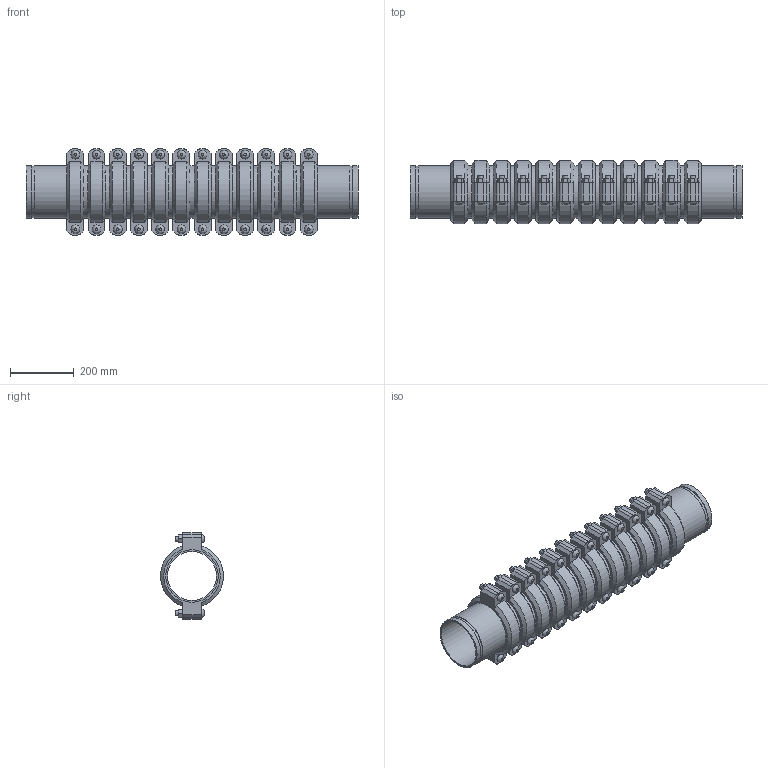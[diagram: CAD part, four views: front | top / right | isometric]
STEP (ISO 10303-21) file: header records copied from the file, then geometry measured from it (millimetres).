
FILE_DESCRIPTION(/* description */ ('VIC EXPANSION JOINT 12 COUPLINGS EXPANDED STYLE 155 (OGS)','CAx-IF Rec.Pracs.---Representation and Presentation of Product Manufacturing Information (PMI)---4.0---2014-10-13'),/* implementation_level */ '2;1');
FILE_NAME(/* name */ 'C:\Users\kkamble\AppData\Roaming\Autodesk\ApplicationPlugins\Victaulic.Temp\A519\Victaulic_IPS_Expansion Joint_Expanded_12 Couplings_Style 155 (OGS)_06.0 (165.1) (150).stp',/* time_stamp */ '2021-06-26T23:54:50+02:00',/* author */ ('kkamble'),/* organization */ ('Victaulic'),/* preprocessor_version */ 'ST-DEVELOPER v17.2',/* originating_system */ 'Autodesk Inventor 2019',/* authorisation */ '');
FILE_SCHEMA (('AP242_MANAGED_MODEL_BASED_3D_ENGINEERING_MIM_LF { 1 0 10303 442 1 1 4 }'));
Length unit declared in the file: inch
Products named in the file (4): 155-06.0 (165.1); Nipple-06.0 (165.1); Nipple-06.0 (165.1)_1; 075-06.0 (165.1)
Assembly tree (25 placements, depth 2):
  155-06.0 (165.1)
    Nipple-06.0 (165.1)  x2
    Nipple-06.0 (165.1)_1  x11
    075-06.0 (165.1)  x12
Bounding box: 1045.21 x 198.42 x 270.76 mm (x, y, z)
Volume: 11005183.7 mm3; surface area: 2439138.2 mm2
Topology: 25 solids, 49 shells, 840 faces, 1986 edges, 1392 vertices
Faces by surface type: plane 510, cylinder 258, cone 48, bspline 24
Full cylindrical faces by diameter (mm): 15.875 x48, 17.424 x24, 153.975 x13, 158.75 x12, 160.782 x26, 165.1 x63
Entity records: 2913 total; most frequent: CARTESIAN_POINT 509, DIRECTION 493, ORIENTED_EDGE 386, AXIS2_PLACEMENT_3D 200, EDGE_CURVE 193, VERTEX_POINT 138, EDGE_LOOP 107, LINE 93
